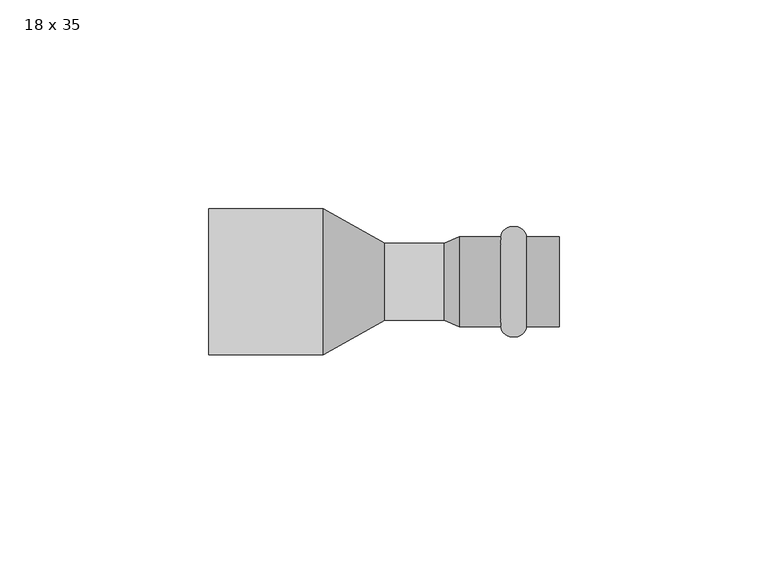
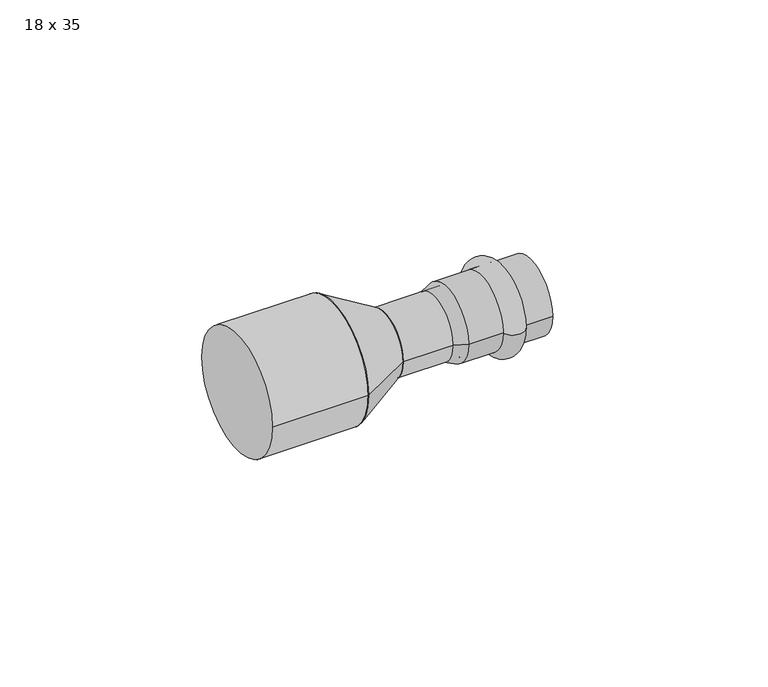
"""IFC4 building model written with IfcOpenShell, lengths in millimetres: pipe fitting geometry, РЕХАУ_Пресс Вставка переходная : 18 x 35."""

from ifc_helpers import new_model, si_unit, point, frame, origin, origin_2d, place, context, project, spatial, polyline, circle_curve, ellipse_curve, trimmed, segment, composite_curve, outline, extrude, source, transform, mapped, element, save
from ifc_brep_helpers import plane_surface, cylinder_surface, revolved_surface, advanced_brep


def pipe_fitting_18_x_35_c52bfadc(model_context):
    return source(origin(), model_context, "Body", "SolidModel", [
        advanced_brep(
        [(76.1, 10.75, 0.0), (76.1, -10.75, 0.0), (70.0, -10.75, 0.0), (70.0, 10.75, 0.0)],
        [
            (0, 1, circle_curve(frame((76.1, 0.0, 0.0), z_axis=(1.0, 0.0, 0.0), x_axis=(0.0, -1.0, 0.0)), 10.75)),
            (1, 2),
            (2, 3, circle_curve(frame((70.0, 0.0, 0.0), z_axis=(-1.0, 0.0, 0.0), x_axis=(0.0, -1.0, 0.0)), 10.75)),
            (3, 0),
            (1, 0, circle_curve(frame((76.1, 0.0, 0.0), z_axis=(1.0, 0.0, 0.0), x_axis=(0.0, -1.0, 0.0)), 10.75)),
            (3, 2, circle_curve(frame((70.0, 0.0, 0.0), z_axis=(-1.0, 0.0, 0.0), x_axis=(0.0, -1.0, 0.0)), 10.75)),
            (2, 1, ellipse_curve(frame((73.05, -10.75, 0.0), z_axis=(0.0, 0.0, 1.0), x_axis=(1.0, 0.0, 0.0)), 3.05, 2.5)),
            (0, 3, ellipse_curve(frame((73.05, 10.75, 0.0), z_axis=(0.0, 0.0, 1.0), x_axis=(1.0, 0.0, 0.0)), 3.05, 2.5)),
        ],
        [
            revolved_surface(polyline([(70.0, -10.75, 0.0), (76.1, -10.75, 0.0)]), (57.0, 0.0, 0.0), (-1.0, 0.0, 0.0)),
            revolved_surface(trimmed(ellipse_curve(frame((73.05, -10.75, 0.0), z_axis=(0.0, 0.0, -1.0), x_axis=(1.0, 0.0, 0.0)), 3.05, 2.5), [point((76.1, -10.75, 0.0))], [point((70.0, -10.75, 0.0))], True, "CARTESIAN"), (57.0, 0.0, 0.0), (-1.0, 0.0, 0.0)),
        ],
        [
            (0, [[1, 2, 3, 4]]),
            (0, [[5, -4, 6, -2]]),
            (1, [[-3, 7, -1, 8]]),
            (1, [[-6, -8, -5, -7]]),
        ],
    ),
        advanced_brep(
        [(56.4662215, 9.25, 0.0), (56.4662215, -9.25, 0.0), (60.0, -10.75, 0.0), (60.0, 10.75, 0.0), (84.0, 9.25, 0.0), (84.0, -9.25, 0.0), (84.0, 10.75, 0.0), (84.0, -10.75, 0.0)],
        [
            (0, 1, circle_curve(frame((56.4662215, 0.0, 0.0), z_axis=(1.0, 0.0, 0.0), x_axis=(0.0, -1.0, 0.0)), 9.25)),
            (1, 2),
            (2, 3, circle_curve(frame((60.0, 0.0, 0.0), z_axis=(-1.0, 0.0, 0.0), x_axis=(0.0, -1.0, 0.0)), 10.75)),
            (3, 0),
            (1, 0, circle_curve(frame((56.4662215, 0.0, 0.0), z_axis=(1.0, 0.0, 0.0), x_axis=(0.0, -1.0, 0.0)), 9.25)),
            (3, 2, circle_curve(frame((60.0, 0.0, 0.0), z_axis=(-1.0, 0.0, 0.0), x_axis=(0.0, -1.0, 0.0)), 10.75)),
            (4, 5, circle_curve(frame((84.0, 0.0, 0.0), z_axis=(1.0, 0.0, 0.0), x_axis=(0.0, -1.0, 0.0)), 9.25)),
            (5, 1),
            (0, 4),
            (5, 4, circle_curve(frame((84.0, 0.0, 0.0), z_axis=(1.0, 0.0, 0.0), x_axis=(0.0, -1.0, 0.0)), 9.25)),
            (6, 7, circle_curve(frame((84.0, 0.0, 0.0), z_axis=(1.0, 0.0, 0.0), x_axis=(0.0, -1.0, 0.0)), 10.75)),
            (7, 5),
            (4, 6),
            (7, 6, circle_curve(frame((84.0, 0.0, 0.0), z_axis=(1.0, 0.0, 0.0), x_axis=(0.0, -1.0, 0.0)), 10.75)),
            (2, 7),
            (6, 3),
        ],
        [
            revolved_surface(polyline([(60.0, -10.75, 0.0), (56.4662215, -9.25, 0.0)]), (57.0, 0.0, 0.0), (-1.0, 0.0, 0.0)),
            revolved_surface(polyline([(56.4662215, -9.25, 0.0), (84.0, -9.25, 0.0)]), (57.0, 0.0, 0.0), (-1.0, 0.0, 0.0)),
            plane_surface(frame((84.0, 0.0, 0.0), z_axis=(1.0, 0.0, 0.0), x_axis=(0.0, -1.0, 0.0))),
            cylinder_surface(frame((57.0, 0.0, 0.0), z_axis=(-1.0, 0.0, 0.0), x_axis=(0.0, -1.0, 0.0)), 10.75),
        ],
        [
            (0, [[1, 2, 3, 4]]),
            (0, [[5, -4, 6, -2]]),
            (1, [[7, 8, -1, 9]]),
            (1, [[10, -9, -5, -8]]),
            (2, [[11, 12, -7, 13]]),
            (2, [[14, -13, -10, -12]]),
            (3, [[-3, 15, -11, 16]]),
            (3, [[-6, -16, -14, -15]]),
        ],
    ),
        extrude(outline(composite_curve([segment(trimmed(circle_curve(origin_2d(), 9.25), [point((-9.25, 0.0))], [point((9.25, 0.0))], False, "CARTESIAN"), True, "CONTINUOUS"), segment(trimmed(circle_curve(origin_2d(), 9.25), [point((9.25, 0.0))], [point((-9.25, 0.0))], False, "CARTESIAN"), True, "CONTINUOUS")], self_intersect=False)), frame((42.2, 0.0, 0.0), z_axis=(1.0, 0.0, 0.0), x_axis=(0.0, 1.0, 0.0)), (0.0, 0.0, 1.0), 17.8),
        advanced_brep(
        [(42.2, -9.25, 0.0), (42.2, 9.25, 0.0), (27.5, -17.5, 0.0), (27.5, 17.5, 0.0)],
        [
            (0, 1, circle_curve(frame((42.2, 0.0, 0.0), z_axis=(1.0, 0.0, 0.0), x_axis=(0.0, -1.0, 0.0)), 9.25)),
            (1, 0, circle_curve(frame((42.2, 0.0, 0.0), z_axis=(1.0, 0.0, 0.0), x_axis=(0.0, 1.0, 0.0)), 9.25)),
            (2, 3, circle_curve(frame((27.5, 0.0, 0.0), z_axis=(-1.0, 0.0, 0.0), x_axis=(0.0, 1.0, 0.0)), 17.5)),
            (3, 2, circle_curve(frame((27.5, 0.0, 0.0), z_axis=(-1.0, 0.0, 0.0), x_axis=(0.0, -1.0, 0.0)), 17.5)),
            (3, 1),
            (0, 2),
        ],
        [
            plane_surface(frame((42.2, 0.0, 0.0), z_axis=(1.0, 0.0, 0.0), x_axis=(0.0, 0.0, -1.0))),
            plane_surface(frame((27.5, 0.0, 0.0), z_axis=(-1.0, 0.0, 0.0), x_axis=(0.0, 0.0, -1.0))),
            revolved_surface(polyline([(42.2, -9.250000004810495, 0.0), (27.5, -17.5, 0.0)]), (58.6818182, 0.0, 0.0), (-1.0, 0.0, 0.0)),
            revolved_surface(polyline([(42.2, 9.250000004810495, 0.0), (27.5, 17.5, 0.0)]), (58.6818182, 0.0, 0.0), (-1.0, 0.0, 0.0)),
        ],
        [
            (0, [[1, 2]]),
            (1, [[3, 4]]),
            (2, [[-4, 5, -1, 6]]),
            (3, [[-3, -6, -2, -5]]),
        ],
    ),
        extrude(outline(composite_curve([segment(trimmed(circle_curve(origin_2d(), 17.5), [point((-17.5, 0.0))], [point((17.5, 0.0))], False, "CARTESIAN"), True, "CONTINUOUS"), segment(trimmed(circle_curve(origin_2d(), 17.5), [point((17.5, 0.0))], [point((-17.5, 0.0))], False, "CARTESIAN"), True, "CONTINUOUS")], self_intersect=False)), frame((0.0, 0.0, 0.0), z_axis=(1.0, 0.0, 0.0), x_axis=(0.0, 1.0, 0.0)), (0.0, 0.0, 1.0), 27.5),
    ])


if __name__ == "__main__":
    model = new_model("IFC4")
    model_context = context("Model", 3, world=origin())
    ifc_project = project(units=[si_unit("LENGTHUNIT", "METRE", prefix="MILLI")], contexts=[model_context])
    site = spatial("IfcSite", under=ifc_project)
    building = spatial("IfcBuilding", under=site)
    placement = place(None, origin())
    pipe_fitting_18_x_35_shape = pipe_fitting_18_x_35_c52bfadc(model_context)
    element("IfcPipeFitting", 1, ObjectType="РЕХАУ_Пресс Вставка переходная : 18 x 35", at=placement, inside=building, context=model_context, shape_type="MappedRepresentation", body=[
        mapped(pipe_fitting_18_x_35_shape, transform((0.0, 0.0, 0.0), x_axis=(1.0, 0.0, 0.0), y_axis=(0.0, 1.0, 0.0), z_axis=(0.0, 0.0, 1.0))),
    ])
    save(model, "model.ifc")
